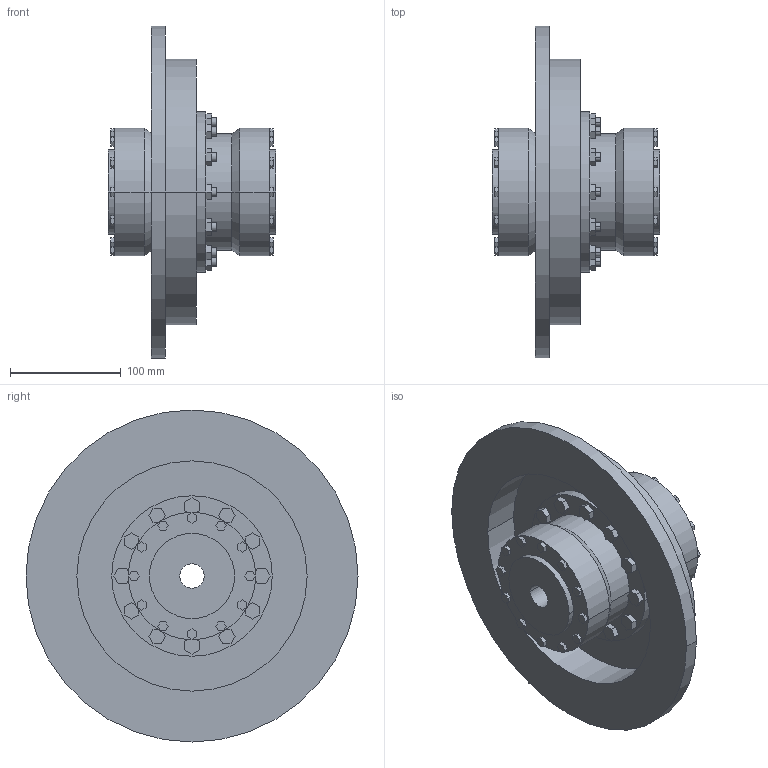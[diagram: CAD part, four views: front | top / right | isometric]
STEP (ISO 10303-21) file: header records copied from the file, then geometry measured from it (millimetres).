
FILE_DESCRIPTION((''),'2;1');
FILE_NAME('A19100700-0_ASM','2019-05-23T',('AB_Roschiwal'),('RENK AG'),'PRO/ENGINEER BY PARAMETRIC TECHNOLOGY CORPORATION, 2015440','PRO/ENGINEER BY PARAMETRIC TECHNOLOGY CORPORATION, 2015440','');
FILE_SCHEMA(('CONFIG_CONTROL_DESIGN'));
Length unit declared in the file: millimetre
Products named in the file (4): SBKT48_GEHAEUSE; SBKT48_NABE; SBKT48_BREMSSCHEIBE; A19100700-0_ASM
Assembly tree (4 placements, depth 2):
  A19100700-0_ASM
    SBKT48_GEHAEUSE
    SBKT48_NABE  x2
    SBKT48_BREMSSCHEIBE
Bounding box: 151 x 300 x 300 mm (x, y, z)
Volume: 2191463.3 mm3; surface area: 404949.8 mm2
Topology: 4 solids, 4 shells, 470 faces, 1156 edges, 768 vertices
Faces by surface type: plane 370, cylinder 96, cone 4
Entity records: 13604 total; most frequent: CARTESIAN_POINT 2350, ORIENTED_EDGE 2264, DIRECTION 2240, EDGE_CURVE 1132, VECTOR 956, LINE 956, VERTEX_POINT 752, AXIS2_PLACEMENT_3D 642
